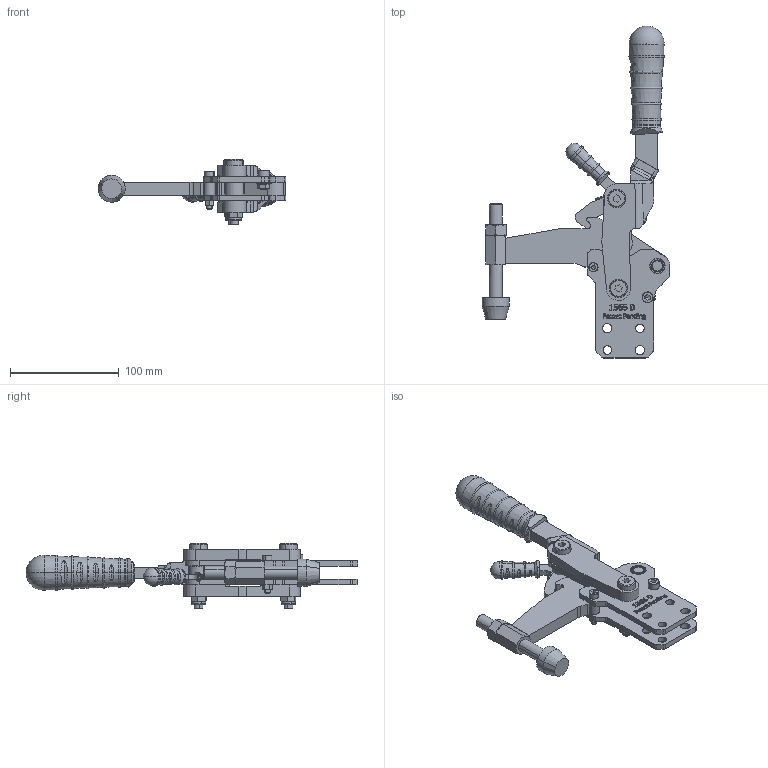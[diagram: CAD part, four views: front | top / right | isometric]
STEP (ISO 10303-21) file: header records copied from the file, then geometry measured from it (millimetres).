
FILE_DESCRIPTION (( 'STEP AP214' ), '1' );
FILE_NAME ('1565_D.STEP', '2020-07-23T07:46:08', ( '' ), ( '' ), 'SwSTEP 2.0', 'SolidWorks 2019', '' );
FILE_SCHEMA (( 'AUTOMOTIVE_DESIGN' ));
Length unit declared in the file: millimetre
Products named in the file (25): 1505UD KilitGövde; socket head cap screw_iso_ISO 4762 M6 x 12 --- 12N; 1535_cap5x12_on paralel burc; M12 Lama 琄 Somunu; 1505_Aðýr seri_Kilit Yayý; C100 Tutamak; socket head cap screw_iso_ISO 4762 M5 x 30 --- 22N; hex nut style 1 gradeab_iso_Hexagon Nut ISO - 4032 - M5 - W - N; 1535_dovme mafsal; 1535_Mafsal_5mm; 1535_A琮l齙HareketKolu; hex flange nut gradea_iso_Hexagon Flange Nut ISO - 4161 - M6 - N; 1505_MafsalGrubu_Kilitli; C45 Tutamak_5x8_5; G39x8x10x40; 1545_UD_Gövde; torque nut 01_iso_ISO 7040-M8-N; 1565_D; 1535_cap10x18_ara mesafe burcu; 1535_Burc_14x10x5; 1535_Cap10x22 Týrtýllý Pim; 1565_BaskýKolu; M12 Somun; Baský M12
Assembly tree (37 placements, depth 3):
  1565_D
    1535_cap10x18_ara mesafe burcu
    1545_UD_Gövde
    1535_Burc_14x10x5  x4
    1545_UD_Gövde
    1535_Cap10x22 Týrtýllý Pim  x2
    1565_BaskýKolu
    socket head cap screw_iso_ISO 4762 M5 x 30 --- 22N
    hex nut style 1 gradeab_iso_Hexagon Nut ISO - 4032 - M5 - W - N
    1505_MafsalGrubu_Kilitli
      1535_dovme mafsal
      1535_Mafsal_5mm  x2
      1535_Burc_14x10x5  x4
      G39x8x10x40  x2
      1535_cap10x18_ara mesafe burcu  x2
    socket head cap screw_iso_ISO 4762 M6 x 12 --- 12N
    hex flange nut gradea_iso_Hexagon Flange Nut ISO - 4161 - M6 - N
    1535_cap5x12_on paralel burc
    torque nut 01_iso_ISO 7040-M8-N  x2
    1505UD KilitGövde
    1535_A琮l齙HareketKolu
    C100 Tutamak
    C45 Tutamak_5x8_5
    1505_Aðýr seri_Kilit Yayý
    M12 Lama 琄 Somunu
    Baský M12
    M12 Somun
Bounding box: 172.51 x 304.88 x 60 mm (x, y, z)
Volume: 324293.3 mm3; surface area: 128052.1 mm2
Topology: 36 solids, 36 shells, 2225 faces, 5595 edges, 3500 vertices
Faces by surface type: plane 1182, cylinder 394, bspline 336, cone 227, torus 82, sphere 4
Entity records: 64206 total; most frequent: CARTESIAN_POINT 26115, ORIENTED_EDGE 7284, DIRECTION 5775, EDGE_CURVE 3642, VERTEX_POINT 2338, AXIS2_PLACEMENT_3D 1928, VECTOR 1919, LINE 1919
